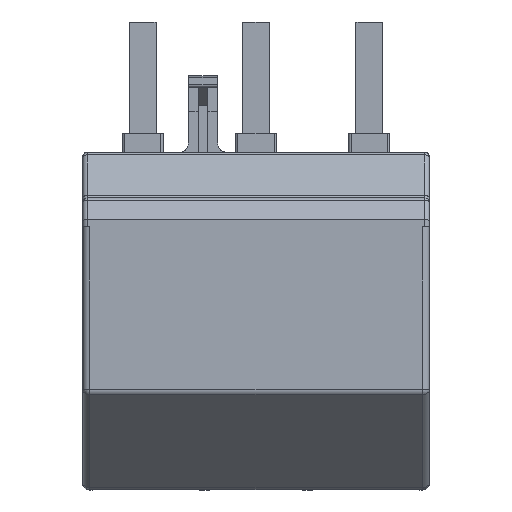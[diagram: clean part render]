
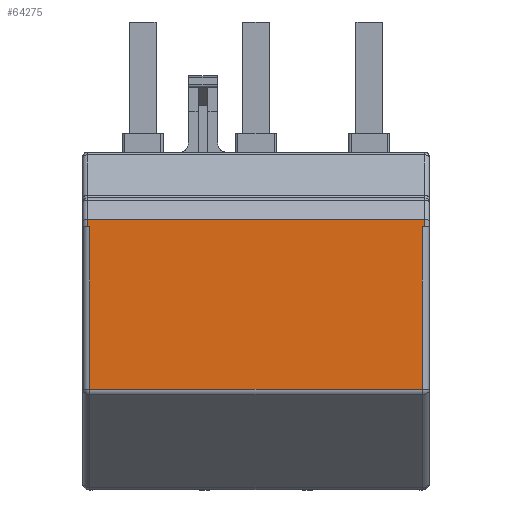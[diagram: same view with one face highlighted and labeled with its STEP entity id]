
A CAD part, top view. The second image highlights one B-rep face of the part: STEP entity #64275.
In plain terms, the highlighted planar face has unit normal (0, 0, 1).
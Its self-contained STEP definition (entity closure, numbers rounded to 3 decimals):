
#5859=DIRECTION('',(0.,-1.,0.));
#5860=VECTOR('',#5859,33.729);
#5861=CARTESIAN_POINT('',(70.5,54.5,0.));
#5862=LINE('',#5861,#5860);
#5863=DIRECTION('',(-1.,0.,0.));
#5864=VECTOR('',#5863,0.5);
#5865=CARTESIAN_POINT('',(71.,54.5,0.));
#5866=LINE('',#5865,#5864);
#5871=DIRECTION('',(-1.,0.,0.));
#5872=VECTOR('',#5871,70.);
#5873=CARTESIAN_POINT('',(71.,56.,0.));
#5874=LINE('',#5873,#5872);
#5880=DIRECTION('',(0.,1.,0.));
#5881=VECTOR('',#5880,33.729);
#5882=CARTESIAN_POINT('',(1.5,20.771,0.));
#5883=LINE('',#5882,#5881);
#5897=DIRECTION('',(-1.,0.,0.));
#5898=VECTOR('',#5897,0.5);
#5899=CARTESIAN_POINT('',(1.5,54.5,0.));
#5900=LINE('',#5899,#5898);
#5905=DIRECTION('',(0.,1.,0.));
#5906=VECTOR('',#5905,1.5);
#5907=CARTESIAN_POINT('',(1.,54.5,0.));
#5908=LINE('',#5907,#5906);
#7628=DIRECTION('',(0.,1.,0.));
#7629=VECTOR('',#7628,1.5);
#7630=CARTESIAN_POINT('',(71.,54.5,0.));
#7631=LINE('',#7630,#7629);
#7668=DIRECTION('',(-1.,0.,0.));
#7669=VECTOR('',#7668,69.);
#7670=CARTESIAN_POINT('',(70.5,20.771,0.));
#7671=LINE('',#7670,#7669);
#47317=CARTESIAN_POINT('',(70.5,20.771,0.));
#47318=CARTESIAN_POINT('',(1.5,20.771,0.));
#47319=VERTEX_POINT('',#47317);
#47320=VERTEX_POINT('',#47318);
#56160=CARTESIAN_POINT('',(71.,54.5,0.));
#56161=CARTESIAN_POINT('',(71.,56.,0.));
#56162=VERTEX_POINT('',#56160);
#56163=VERTEX_POINT('',#56161);
#56176=CARTESIAN_POINT('',(1.,54.5,0.));
#56177=CARTESIAN_POINT('',(1.,56.,0.));
#56178=VERTEX_POINT('',#56176);
#56179=VERTEX_POINT('',#56177);
#58095=CARTESIAN_POINT('',(70.5,54.5,0.));
#58097=VERTEX_POINT('',#58095);
#58099=CARTESIAN_POINT('',(1.5,54.5,0.));
#58101=VERTEX_POINT('',#58099);
#64254=CARTESIAN_POINT('',(0.,0.,0.));
#64255=DIRECTION('',(0.,0.,1.));
#64256=DIRECTION('',(1.,0.,0.));
#64257=AXIS2_PLACEMENT_3D('',#64254,#64255,#64256);
#64258=PLANE('',#64257);
#64260=ORIENTED_EDGE('',*,*,#64259,.T.);
#64262=ORIENTED_EDGE('',*,*,#64261,.T.);
#64264=ORIENTED_EDGE('',*,*,#64263,.T.);
#64266=ORIENTED_EDGE('',*,*,#64265,.F.);
#64268=ORIENTED_EDGE('',*,*,#64267,.F.);
#64269=ORIENTED_EDGE('',*,*,#64239,.T.);
#64270=ORIENTED_EDGE('',*,*,#64221,.T.);
#64272=ORIENTED_EDGE('',*,*,#64271,.T.);
#64273=EDGE_LOOP('',(#64260,#64262,#64264,#64266,#64268,#64269,#64270,#64272));
#64274=FACE_OUTER_BOUND('',#64273,.F.);
#64275=ADVANCED_FACE('',(#64274),#64258,.T.);
#64221=EDGE_CURVE('',#58097,#47319,#5862,.T.);
#64239=EDGE_CURVE('',#56162,#58097,#5866,.T.);
#64259=EDGE_CURVE('',#47320,#58101,#5883,.T.);
#64261=EDGE_CURVE('',#58101,#56178,#5900,.T.);
#64263=EDGE_CURVE('',#56178,#56179,#5908,.T.);
#64265=EDGE_CURVE('',#56163,#56179,#5874,.T.);
#64267=EDGE_CURVE('',#56162,#56163,#7631,.T.);
#64271=EDGE_CURVE('',#47319,#47320,#7671,.T.);
